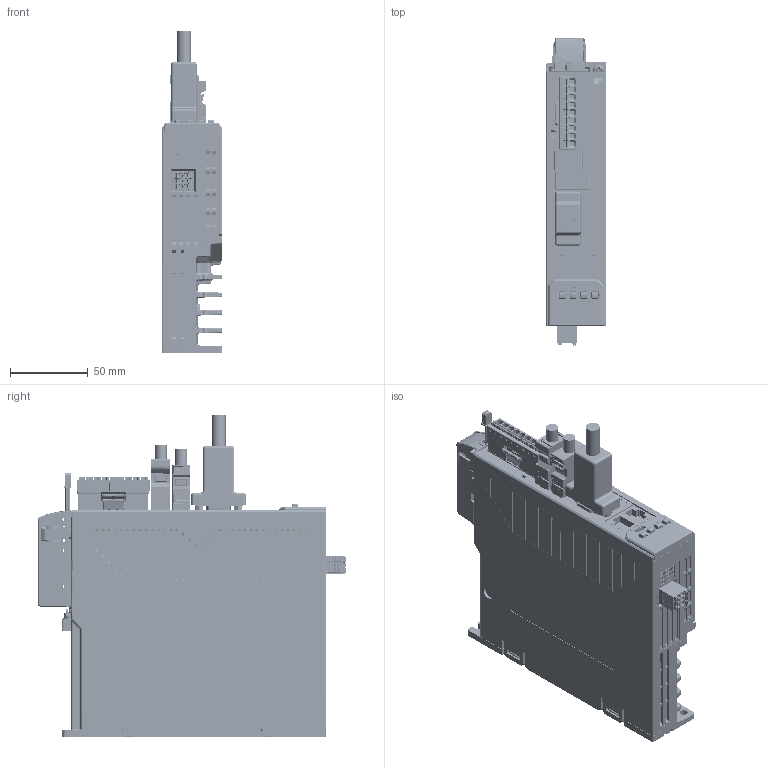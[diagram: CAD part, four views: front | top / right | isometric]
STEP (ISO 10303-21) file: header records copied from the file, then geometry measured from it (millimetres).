
FILE_DESCRIPTION((''),'2;1');
FILE_NAME('SD900-3R3A-EA_ASM','2025-09-28T',('v5489'),(''),'CREO PARAMETRIC BY PTC INC, 2018360','CREO PARAMETRIC BY PTC INC, 2018360','');
FILE_SCHEMA(('AP203_CONFIGURATION_CONTROLLED_3D_DESIGN_OF_MECHANICAL_PARTS_AND_ASSEMBLIES_MIM_LF { 1 0 10303 403 2 1 2 }'));
Products named in the file (23): SD900-EA-A_ASM_1_1; SD900-EA-A_ASM_1_2; SD900-EA-A_ASM_1_3; SD900-EA-A_ASM_1_4; SD900-EA-A_ASM_1_5; SD900-EA-A_ASM_1_6; SD900-EA-A_ASM_1_7; SD900-EA-A_ASM_1_ASM; SD900-DCH-P001_284; SD900-DCH-N001_98; 14505_50_1; 14505_50_2; 14505_50_3; 14505_50_ASM; S6-C4A_31; SD900-DCH-P_ASM_535_ASM; SD900-DCH-P_ASM_ASM; 5006540609; F9AP-5_0-09P-A; 1394SM_10P_; DB-15-1; 15EDGKNH-3_5-04P-14-00A_H_; SD900-3R3A-EA_ASM
Assembly tree (22 placements, depth 5):
  SD900-3R3A-EA_ASM
    SD900-EA-A_ASM_1_ASM
      SD900-EA-A_ASM_1_1
      SD900-EA-A_ASM_1_2
      SD900-EA-A_ASM_1_3
      SD900-EA-A_ASM_1_4
      SD900-EA-A_ASM_1_5
      SD900-EA-A_ASM_1_6
      SD900-EA-A_ASM_1_7
    SD900-DCH-P_ASM_ASM
      SD900-DCH-P_ASM_535_ASM
        SD900-DCH-P001_284
        SD900-DCH-N001_98
        14505_50_ASM
          14505_50_1
          14505_50_2
          14505_50_3
        S6-C4A_31
    5006540609
    F9AP-5_0-09P-A
    1394SM_10P_
    DB-15-1
    15EDGKNH-3_5-04P-14-00A_H_
Bounding box: 39 x 198.72 x 207.45 mm (x, y, z)
Volume: 54161.4 mm3; surface area: 192282.5 mm2
Topology: 17 solids, 52 shells, 11012 faces, 29748 edges, 18908 vertices
Faces by surface type: plane 6753, cylinder 2590, bspline 455, cone 372, torus 366, extrusion 284, sphere 192
Entity records: 424318 total; most frequent: CARTESIAN_POINT 98515, ORIENTED_EDGE 59026, DIRECTION 51484, EDGE_CURVE 29568, VECTOR 21196, LINE 20912, VERTEX_POINT 18904, AXIS2_PLACEMENT_3D 15144
